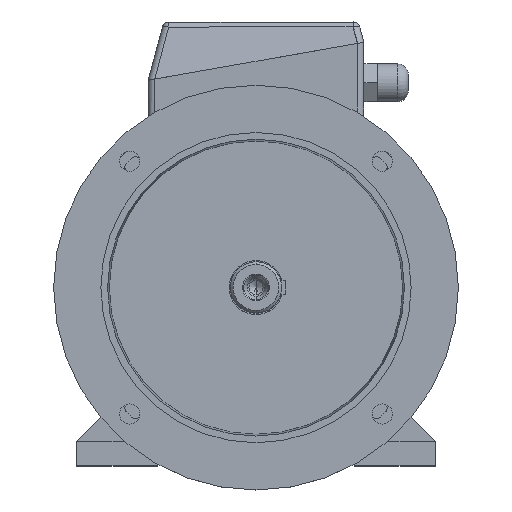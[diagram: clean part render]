
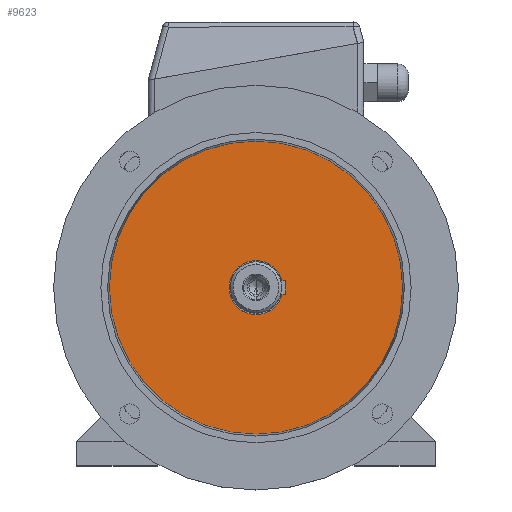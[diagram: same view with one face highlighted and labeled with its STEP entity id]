
A CAD part, top view. The second image highlights one B-rep face of the part: STEP entity #9623.
In plain terms, the highlighted planar face has unit normal (0, 0, 1).
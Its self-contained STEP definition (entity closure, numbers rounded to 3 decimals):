
#2014 = FACE_BOUND ( 'NONE', #9355, .T. ) ;
#2020 = FACE_OUTER_BOUND ( 'NONE', #13482, .T. ) ;
#2021 = PLANE ( 'NONE',  #2022 ) ;
#2022 = AXIS2_PLACEMENT_3D ( 'NONE', #2023, #2024, #2025 ) ;
#2023 = CARTESIAN_POINT ( 'NONE',  ( 0., 110., 47. ) ) ;
#2024 = DIRECTION ( 'NONE',  ( 0., 0., 1. ) ) ;
#2025 = DIRECTION ( 'NONE',  ( 1., 0., 0. ) ) ;
#2784 = CARTESIAN_POINT ( 'NONE',  ( 108.688, 0., 47. ) ) ;
#2980 = CARTESIAN_POINT ( 'NONE',  ( -108.688, 0., 47. ) ) ;
#3119 = CIRCLE ( 'NONE', #3120, 108.688 ) ;
#3120 = AXIS2_PLACEMENT_3D ( 'NONE', #3127, #3128, #3129 ) ;
#3127 = CARTESIAN_POINT ( 'NONE',  ( 0., 0., 47. ) ) ;
#3128 = DIRECTION ( 'NONE',  ( 0., 0., 1. ) ) ;
#3129 = DIRECTION ( 'NONE',  ( 1., 0., 0. ) ) ;
#3260 = CIRCLE ( 'NONE', #3261, 108.688 ) ;
#3261 = AXIS2_PLACEMENT_3D ( 'NONE', #3262, #3263, #3264 ) ;
#3262 = CARTESIAN_POINT ( 'NONE',  ( 0., 0., 47. ) ) ;
#3263 = DIRECTION ( 'NONE',  ( 0., 0., 1. ) ) ;
#3264 = DIRECTION ( 'NONE',  ( 1., 0., 0. ) ) ;
#6882 = CARTESIAN_POINT ( 'NONE',  ( 0., 20., 47. ) ) ;
#6978 = CIRCLE ( 'NONE', #6979, 20. ) ;
#6979 = AXIS2_PLACEMENT_3D ( 'NONE', #6980, #6981, #6982 ) ;
#6980 = CARTESIAN_POINT ( 'NONE',  ( 0., 0., 47. ) ) ;
#6981 = DIRECTION ( 'NONE',  ( 0., 0., 1. ) ) ;
#6982 = DIRECTION ( 'NONE',  ( 1., 0., 0. ) ) ;
#7514 = CARTESIAN_POINT ( 'NONE',  ( 0., -20., 47. ) ) ;
#8964 = ORIENTED_EDGE ( 'NONE', *, *, #14348, .F. ) ;
#9355 = EDGE_LOOP ( 'NONE', ( #8964, #13750 ) ) ;
#9623 = ADVANCED_FACE ( 'NONE', ( #2014, #2020 ), #2021, .T. ) ;
#10277 = CIRCLE ( 'NONE', #10278, 20. ) ;
#10278 = AXIS2_PLACEMENT_3D ( 'NONE', #10279, #10280, #10281 ) ;
#10279 = CARTESIAN_POINT ( 'NONE',  ( 0., 0., 47. ) ) ;
#10280 = DIRECTION ( 'NONE',  ( 0., 0., 1. ) ) ;
#10281 = DIRECTION ( 'NONE',  ( 1., 0., 0. ) ) ;
#10501 = VERTEX_POINT ( 'NONE', #2784 ) ;
#10753 = VERTEX_POINT ( 'NONE', #2980 ) ;
#11002 = EDGE_CURVE ( 'NONE', #10753, #10501, #3119, .T. ) ;
#11234 = EDGE_CURVE ( 'NONE', #10501, #10753, #3260, .T. ) ;
#12209 = VERTEX_POINT ( 'NONE', #6882 ) ;
#12250 = EDGE_CURVE ( 'NONE', #12497, #12209, #6978, .T. ) ;
#12497 = VERTEX_POINT ( 'NONE', #7514 ) ;
#12871 = ORIENTED_EDGE ( 'NONE', *, *, #11002, .T. ) ;
#13019 = ORIENTED_EDGE ( 'NONE', *, *, #11234, .T. ) ;
#13482 = EDGE_LOOP ( 'NONE', ( #13019, #12871 ) ) ;
#13750 = ORIENTED_EDGE ( 'NONE', *, *, #12250, .F. ) ;
#14348 = EDGE_CURVE ( 'NONE', #12209, #12497, #10277, .T. ) ;
